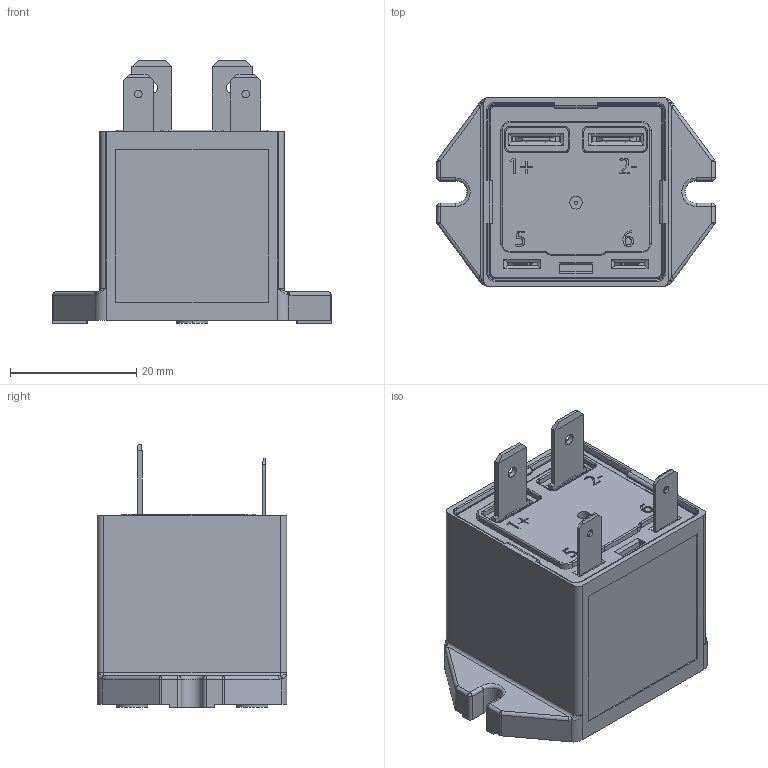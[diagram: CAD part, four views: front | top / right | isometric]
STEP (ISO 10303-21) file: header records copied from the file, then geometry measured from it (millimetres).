
FILE_DESCRIPTION (( 'STEP AP203' ), '1' );
FILE_NAME ('NVR5V-20EÍâ¹Û.STEP', '2020-07-14T08:53:53', ( '' ), ( '' ), 'SwSTEP 2.0', 'SolidWorks 2020', '' );
FILE_SCHEMA (( 'CONFIG_CONTROL_DESIGN' ));
Length unit declared in the file: millimetre
Bounding box: 44 x 30 x 41.6 mm (x, y, z)
Volume: 27025.1 mm3; surface area: 10150 mm2
Topology: 2 solids, 2 shells, 1166 faces, 2970 edges, 1807 vertices
Faces by surface type: plane 518, cylinder 460, torus 97, bspline 51, sphere 36, cone 4
Entity records: 36926 total; most frequent: CARTESIAN_POINT 9072, ORIENTED_EDGE 5868, DIRECTION 5776, EDGE_CURVE 2934, AXIS2_PLACEMENT_3D 1965, VECTOR 1846, LINE 1846, VERTEX_POINT 1807
